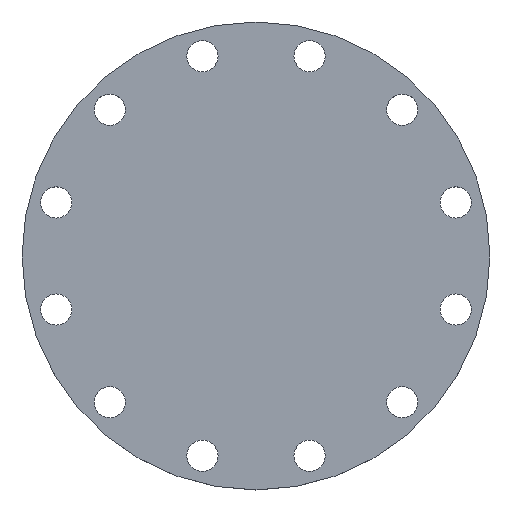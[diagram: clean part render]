
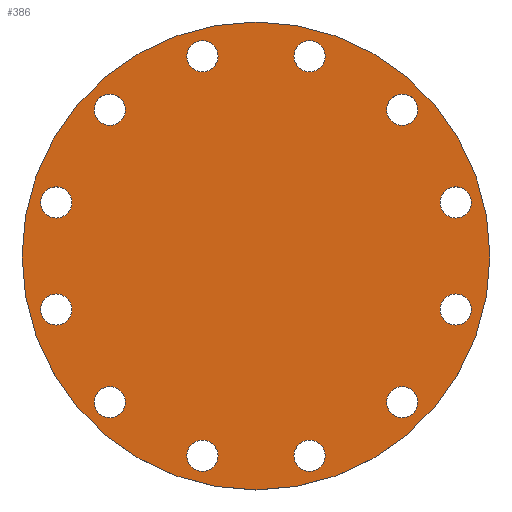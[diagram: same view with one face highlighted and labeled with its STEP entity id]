
A CAD part, top view. The second image highlights one B-rep face of the part: STEP entity #386.
In plain terms, the highlighted planar face has unit normal (0, 0, 1).
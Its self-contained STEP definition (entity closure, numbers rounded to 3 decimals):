
#15=FACE_BOUND('',#70,.T.);
#16=FACE_BOUND('',#71,.T.);
#17=FACE_BOUND('',#72,.T.);
#18=FACE_BOUND('',#73,.T.);
#19=FACE_BOUND('',#74,.T.);
#20=FACE_BOUND('',#75,.T.);
#21=FACE_BOUND('',#76,.T.);
#22=FACE_BOUND('',#77,.T.);
#23=FACE_BOUND('',#78,.T.);
#24=FACE_BOUND('',#79,.T.);
#25=FACE_BOUND('',#80,.T.);
#26=FACE_BOUND('',#81,.T.);
#39=PLANE('',#461);
#54=FACE_OUTER_BOUND('',#69,.T.);
#69=EDGE_LOOP('',(#320,#321));
#70=EDGE_LOOP('',(#322,#323));
#71=EDGE_LOOP('',(#324,#325));
#72=EDGE_LOOP('',(#326,#327));
#73=EDGE_LOOP('',(#328,#329));
#74=EDGE_LOOP('',(#330,#331));
#75=EDGE_LOOP('',(#332,#333));
#76=EDGE_LOOP('',(#334,#335));
#77=EDGE_LOOP('',(#336,#337));
#78=EDGE_LOOP('',(#338,#339));
#79=EDGE_LOOP('',(#340,#341));
#80=EDGE_LOOP('',(#342,#343));
#81=EDGE_LOOP('',(#344,#345));
#121=CIRCLE('',#409,11.5);
#122=CIRCLE('',#410,11.5);
#124=CIRCLE('',#413,11.5);
#125=CIRCLE('',#414,11.5);
#127=CIRCLE('',#417,11.5);
#128=CIRCLE('',#418,11.5);
#130=CIRCLE('',#421,11.5);
#131=CIRCLE('',#422,11.5);
#133=CIRCLE('',#425,11.5);
#134=CIRCLE('',#426,11.5);
#136=CIRCLE('',#429,11.5);
#137=CIRCLE('',#430,11.5);
#139=CIRCLE('',#433,11.5);
#140=CIRCLE('',#434,11.5);
#142=CIRCLE('',#437,11.5);
#143=CIRCLE('',#438,11.5);
#145=CIRCLE('',#441,11.5);
#146=CIRCLE('',#442,11.5);
#148=CIRCLE('',#445,11.5);
#149=CIRCLE('',#446,11.5);
#151=CIRCLE('',#449,11.5);
#152=CIRCLE('',#450,11.5);
#154=CIRCLE('',#453,11.5);
#155=CIRCLE('',#454,11.5);
#157=CIRCLE('',#457,172.5);
#158=CIRCLE('',#458,172.5);
#161=VERTEX_POINT('',#590);
#162=VERTEX_POINT('',#591);
#164=VERTEX_POINT('',#598);
#165=VERTEX_POINT('',#599);
#167=VERTEX_POINT('',#606);
#168=VERTEX_POINT('',#607);
#170=VERTEX_POINT('',#614);
#171=VERTEX_POINT('',#615);
#173=VERTEX_POINT('',#622);
#174=VERTEX_POINT('',#623);
#176=VERTEX_POINT('',#630);
#177=VERTEX_POINT('',#631);
#179=VERTEX_POINT('',#638);
#180=VERTEX_POINT('',#639);
#182=VERTEX_POINT('',#646);
#183=VERTEX_POINT('',#647);
#185=VERTEX_POINT('',#654);
#186=VERTEX_POINT('',#655);
#188=VERTEX_POINT('',#662);
#189=VERTEX_POINT('',#663);
#191=VERTEX_POINT('',#670);
#192=VERTEX_POINT('',#671);
#194=VERTEX_POINT('',#678);
#195=VERTEX_POINT('',#679);
#197=VERTEX_POINT('',#686);
#198=VERTEX_POINT('',#687);
#201=EDGE_CURVE('',#161,#162,#121,.T.);
#202=EDGE_CURVE('',#162,#161,#122,.T.);
#205=EDGE_CURVE('',#164,#165,#124,.T.);
#206=EDGE_CURVE('',#165,#164,#125,.T.);
#209=EDGE_CURVE('',#167,#168,#127,.T.);
#210=EDGE_CURVE('',#168,#167,#128,.T.);
#213=EDGE_CURVE('',#170,#171,#130,.T.);
#214=EDGE_CURVE('',#171,#170,#131,.T.);
#217=EDGE_CURVE('',#173,#174,#133,.T.);
#218=EDGE_CURVE('',#174,#173,#134,.T.);
#221=EDGE_CURVE('',#176,#177,#136,.T.);
#222=EDGE_CURVE('',#177,#176,#137,.T.);
#225=EDGE_CURVE('',#179,#180,#139,.T.);
#226=EDGE_CURVE('',#180,#179,#140,.T.);
#229=EDGE_CURVE('',#182,#183,#142,.T.);
#230=EDGE_CURVE('',#183,#182,#143,.T.);
#233=EDGE_CURVE('',#185,#186,#145,.T.);
#234=EDGE_CURVE('',#186,#185,#146,.T.);
#237=EDGE_CURVE('',#188,#189,#148,.T.);
#238=EDGE_CURVE('',#189,#188,#149,.T.);
#241=EDGE_CURVE('',#191,#192,#151,.T.);
#242=EDGE_CURVE('',#192,#191,#152,.T.);
#245=EDGE_CURVE('',#194,#195,#154,.T.);
#246=EDGE_CURVE('',#195,#194,#155,.T.);
#249=EDGE_CURVE('',#197,#198,#157,.T.);
#250=EDGE_CURVE('',#198,#197,#158,.T.);
#320=ORIENTED_EDGE('',*,*,#249,.T.);
#321=ORIENTED_EDGE('',*,*,#250,.T.);
#322=ORIENTED_EDGE('',*,*,#201,.T.);
#323=ORIENTED_EDGE('',*,*,#202,.T.);
#324=ORIENTED_EDGE('',*,*,#205,.T.);
#325=ORIENTED_EDGE('',*,*,#206,.T.);
#326=ORIENTED_EDGE('',*,*,#209,.T.);
#327=ORIENTED_EDGE('',*,*,#210,.T.);
#328=ORIENTED_EDGE('',*,*,#213,.T.);
#329=ORIENTED_EDGE('',*,*,#214,.T.);
#330=ORIENTED_EDGE('',*,*,#217,.T.);
#331=ORIENTED_EDGE('',*,*,#218,.T.);
#332=ORIENTED_EDGE('',*,*,#221,.T.);
#333=ORIENTED_EDGE('',*,*,#222,.T.);
#334=ORIENTED_EDGE('',*,*,#225,.T.);
#335=ORIENTED_EDGE('',*,*,#226,.T.);
#336=ORIENTED_EDGE('',*,*,#229,.T.);
#337=ORIENTED_EDGE('',*,*,#230,.T.);
#338=ORIENTED_EDGE('',*,*,#233,.T.);
#339=ORIENTED_EDGE('',*,*,#234,.T.);
#340=ORIENTED_EDGE('',*,*,#237,.T.);
#341=ORIENTED_EDGE('',*,*,#238,.T.);
#342=ORIENTED_EDGE('',*,*,#241,.T.);
#343=ORIENTED_EDGE('',*,*,#242,.T.);
#344=ORIENTED_EDGE('',*,*,#245,.T.);
#345=ORIENTED_EDGE('',*,*,#246,.T.);
#386=ADVANCED_FACE('',(#54,#15,#16,#17,#18,#19,#20,#21,#22,#23,#24,#25,
#26),#39,.T.);
#409=AXIS2_PLACEMENT_3D('',#592,#467,#468);
#410=AXIS2_PLACEMENT_3D('',#593,#469,#470);
#413=AXIS2_PLACEMENT_3D('',#600,#476,#477);
#414=AXIS2_PLACEMENT_3D('',#601,#478,#479);
#417=AXIS2_PLACEMENT_3D('',#608,#485,#486);
#418=AXIS2_PLACEMENT_3D('',#609,#487,#488);
#421=AXIS2_PLACEMENT_3D('',#616,#494,#495);
#422=AXIS2_PLACEMENT_3D('',#617,#496,#497);
#425=AXIS2_PLACEMENT_3D('',#624,#503,#504);
#426=AXIS2_PLACEMENT_3D('',#625,#505,#506);
#429=AXIS2_PLACEMENT_3D('',#632,#512,#513);
#430=AXIS2_PLACEMENT_3D('',#633,#514,#515);
#433=AXIS2_PLACEMENT_3D('',#640,#521,#522);
#434=AXIS2_PLACEMENT_3D('',#641,#523,#524);
#437=AXIS2_PLACEMENT_3D('',#648,#530,#531);
#438=AXIS2_PLACEMENT_3D('',#649,#532,#533);
#441=AXIS2_PLACEMENT_3D('',#656,#539,#540);
#442=AXIS2_PLACEMENT_3D('',#657,#541,#542);
#445=AXIS2_PLACEMENT_3D('',#664,#548,#549);
#446=AXIS2_PLACEMENT_3D('',#665,#550,#551);
#449=AXIS2_PLACEMENT_3D('',#672,#557,#558);
#450=AXIS2_PLACEMENT_3D('',#673,#559,#560);
#453=AXIS2_PLACEMENT_3D('',#680,#566,#567);
#454=AXIS2_PLACEMENT_3D('',#681,#568,#569);
#457=AXIS2_PLACEMENT_3D('',#688,#575,#576);
#458=AXIS2_PLACEMENT_3D('',#689,#577,#578);
#461=AXIS2_PLACEMENT_3D('',#695,#584,#585);
#467=DIRECTION('center_axis',(0.,0.,-1.));
#468=DIRECTION('ref_axis',(0.866,-0.5,0.));
#469=DIRECTION('center_axis',(0.,0.,-1.));
#470=DIRECTION('ref_axis',(0.866,-0.5,0.));
#476=DIRECTION('center_axis',(0.,0.,-1.));
#477=DIRECTION('ref_axis',(0.5,-0.866,0.));
#478=DIRECTION('center_axis',(0.,0.,-1.));
#479=DIRECTION('ref_axis',(0.5,-0.866,0.));
#485=DIRECTION('center_axis',(0.,0.,-1.));
#486=DIRECTION('ref_axis',(0.,-1.,0.));
#487=DIRECTION('center_axis',(0.,0.,-1.));
#488=DIRECTION('ref_axis',(0.,-1.,0.));
#494=DIRECTION('center_axis',(0.,0.,-1.));
#495=DIRECTION('ref_axis',(-0.5,-0.866,0.));
#496=DIRECTION('center_axis',(0.,0.,-1.));
#497=DIRECTION('ref_axis',(-0.5,-0.866,0.));
#503=DIRECTION('center_axis',(0.,0.,-1.));
#504=DIRECTION('ref_axis',(-0.866,-0.5,0.));
#505=DIRECTION('center_axis',(0.,0.,-1.));
#506=DIRECTION('ref_axis',(-0.866,-0.5,0.));
#512=DIRECTION('center_axis',(0.,0.,-1.));
#513=DIRECTION('ref_axis',(-1.,0.,0.));
#514=DIRECTION('center_axis',(0.,0.,-1.));
#515=DIRECTION('ref_axis',(-1.,0.,0.));
#521=DIRECTION('center_axis',(0.,0.,-1.));
#522=DIRECTION('ref_axis',(-0.866,0.5,0.));
#523=DIRECTION('center_axis',(0.,0.,-1.));
#524=DIRECTION('ref_axis',(-0.866,0.5,0.));
#530=DIRECTION('center_axis',(0.,0.,-1.));
#531=DIRECTION('ref_axis',(-0.5,0.866,0.));
#532=DIRECTION('center_axis',(0.,0.,-1.));
#533=DIRECTION('ref_axis',(-0.5,0.866,0.));
#539=DIRECTION('center_axis',(0.,0.,-1.));
#540=DIRECTION('ref_axis',(0.,1.,0.));
#541=DIRECTION('center_axis',(0.,0.,-1.));
#542=DIRECTION('ref_axis',(0.,1.,0.));
#548=DIRECTION('center_axis',(0.,0.,-1.));
#549=DIRECTION('ref_axis',(0.5,0.866,0.));
#550=DIRECTION('center_axis',(0.,0.,-1.));
#551=DIRECTION('ref_axis',(0.5,0.866,0.));
#557=DIRECTION('center_axis',(0.,0.,-1.));
#558=DIRECTION('ref_axis',(0.866,0.5,0.));
#559=DIRECTION('center_axis',(0.,0.,-1.));
#560=DIRECTION('ref_axis',(0.866,0.5,0.));
#566=DIRECTION('center_axis',(0.,0.,-1.));
#567=DIRECTION('ref_axis',(1.,0.,0.));
#568=DIRECTION('center_axis',(0.,0.,-1.));
#569=DIRECTION('ref_axis',(1.,0.,0.));
#575=DIRECTION('center_axis',(0.,0.,1.));
#576=DIRECTION('ref_axis',(1.,0.,0.));
#577=DIRECTION('center_axis',(0.,0.,1.));
#578=DIRECTION('ref_axis',(1.,0.,0.));
#584=DIRECTION('center_axis',(0.,0.,1.));
#585=DIRECTION('ref_axis',(1.,0.,0.));
#590=CARTESIAN_POINT('',(49.429,141.554,20.));
#591=CARTESIAN_POINT('',(29.511,153.054,20.));
#592=CARTESIAN_POINT('Origin',(39.47,147.304,20.));
#593=CARTESIAN_POINT('Origin',(39.47,147.304,20.));
#598=CARTESIAN_POINT('',(113.584,97.874,20.));
#599=CARTESIAN_POINT('',(102.084,117.793,20.));
#600=CARTESIAN_POINT('Origin',(107.834,107.834,20.));
#601=CARTESIAN_POINT('Origin',(107.834,107.834,20.));
#606=CARTESIAN_POINT('',(147.304,27.97,20.));
#607=CARTESIAN_POINT('',(147.304,50.97,20.));
#608=CARTESIAN_POINT('Origin',(147.304,39.47,20.));
#609=CARTESIAN_POINT('Origin',(147.304,39.47,20.));
#614=CARTESIAN_POINT('',(141.554,-49.429,20.));
#615=CARTESIAN_POINT('',(153.054,-29.511,20.));
#616=CARTESIAN_POINT('Origin',(147.304,-39.47,20.));
#617=CARTESIAN_POINT('Origin',(147.304,-39.47,20.));
#622=CARTESIAN_POINT('',(97.874,-113.584,20.));
#623=CARTESIAN_POINT('',(117.793,-102.084,20.));
#624=CARTESIAN_POINT('Origin',(107.834,-107.834,20.));
#625=CARTESIAN_POINT('Origin',(107.834,-107.834,20.));
#630=CARTESIAN_POINT('',(27.97,-147.304,20.));
#631=CARTESIAN_POINT('',(50.97,-147.304,20.));
#632=CARTESIAN_POINT('Origin',(39.47,-147.304,20.));
#633=CARTESIAN_POINT('Origin',(39.47,-147.304,20.));
#638=CARTESIAN_POINT('',(-49.429,-141.554,20.));
#639=CARTESIAN_POINT('',(-29.511,-153.054,20.));
#640=CARTESIAN_POINT('Origin',(-39.47,-147.304,20.));
#641=CARTESIAN_POINT('Origin',(-39.47,-147.304,20.));
#646=CARTESIAN_POINT('',(-113.584,-97.874,20.));
#647=CARTESIAN_POINT('',(-102.084,-117.793,20.));
#648=CARTESIAN_POINT('Origin',(-107.834,-107.834,20.));
#649=CARTESIAN_POINT('Origin',(-107.834,-107.834,20.));
#654=CARTESIAN_POINT('',(-147.304,-27.97,20.));
#655=CARTESIAN_POINT('',(-147.304,-50.97,20.));
#656=CARTESIAN_POINT('Origin',(-147.304,-39.47,20.));
#657=CARTESIAN_POINT('Origin',(-147.304,-39.47,20.));
#662=CARTESIAN_POINT('',(-141.554,49.429,20.));
#663=CARTESIAN_POINT('',(-153.054,29.511,20.));
#664=CARTESIAN_POINT('Origin',(-147.304,39.47,20.));
#665=CARTESIAN_POINT('Origin',(-147.304,39.47,20.));
#670=CARTESIAN_POINT('',(-97.874,113.584,20.));
#671=CARTESIAN_POINT('',(-117.793,102.084,20.));
#672=CARTESIAN_POINT('Origin',(-107.834,107.834,20.));
#673=CARTESIAN_POINT('Origin',(-107.834,107.834,20.));
#678=CARTESIAN_POINT('',(-27.97,147.304,20.));
#679=CARTESIAN_POINT('',(-50.97,147.304,20.));
#680=CARTESIAN_POINT('Origin',(-39.47,147.304,20.));
#681=CARTESIAN_POINT('Origin',(-39.47,147.304,20.));
#686=CARTESIAN_POINT('',(172.5,0.,20.));
#687=CARTESIAN_POINT('',(-172.5,0.,20.));
#688=CARTESIAN_POINT('Origin',(0.,0.,20.));
#689=CARTESIAN_POINT('Origin',(0.,0.,20.));
#695=CARTESIAN_POINT('Origin',(0.,0.,20.));
